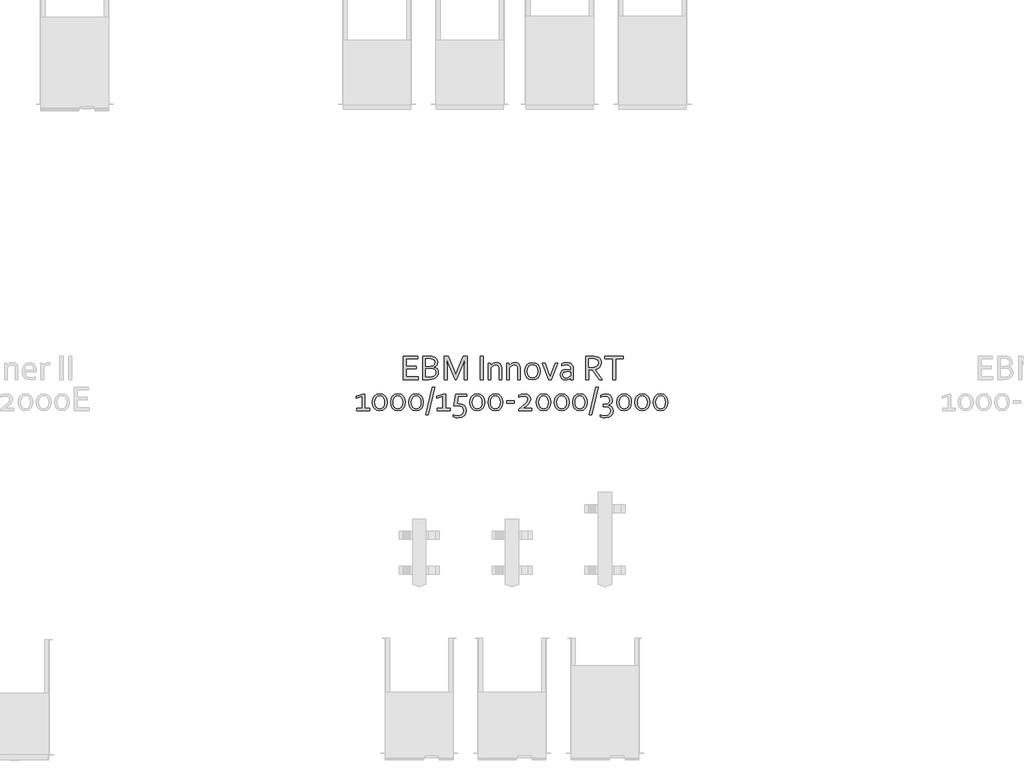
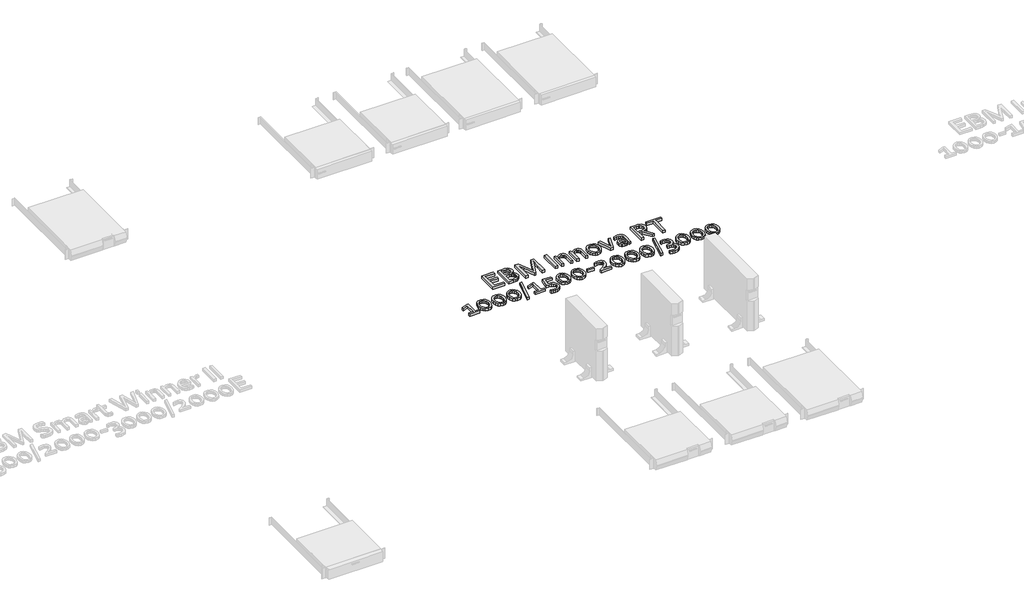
# One storey, part 5 of 14: 1 proxy.
"""IFC4 building model written with IfcOpenShell, lengths in millimetres."""

from ifc_helpers import new_model, si_unit, origin, origin_with_axes, place, context, project, spatial, polyline, outline, extrude, element, save

model = new_model("IFC4")

# Units and contexts
model_context = context("Model", 3, world=origin())
ifc_project = project(units=[si_unit("LENGTHUNIT", "METRE", prefix="MILLI")], contexts=[model_context])

# Site, building, storey
site = spatial("IfcSite", under=ifc_project)
building = spatial("IfcBuilding", under=site)
storey = spatial("IfcBuildingStorey", under=building, Name="Этаж 01", Elevation=0.0)

# Proxy
placement = place(None, origin())
element("IfcBuildingElementProxy", 1, Name="150 мм Corbel", ObjectType="150 мм Corbel", at=placement, inside=storey, context=model_context, shape_type="SweptSolid", body=[
    extrude(outline(polyline([(8133.1214474, -7548.6877316), (8210.0346045, -7548.6877316), (8210.0346045, -7565.4878752), (8113.5212799, -7565.4878752), (8113.5212799, -7414.2865833), (8205.878319, -7414.2865833), (8205.878319, -7431.0867269), (8133.1214474, -7431.0867269), (8133.1214474, -7478.6871335), (8197.8282502, -7478.6871335), (8197.8282502, -7495.4872771), (8133.1214474, -7495.4872771), (8133.1214474, -7548.6877316)])), origin_with_axes(), (0.0, 0.0, 1.0), 20.0),
    extrude(outline(polyline([(8310.8354658, -7486.1246971), (8323.3261975, -7490.1278563), (8332.7325278, -7497.1497913), (8338.4638268, -7507.3217532), (8340.3232177, -7520.7749931), (8338.8138298, -7532.0407144), (8333.7825368, -7543.4814371), (8324.5512079, -7553.7190246), (8310.397962, -7561.37534), (8296.004089, -7564.5691173), (8277.0164268, -7565.4878752), (8239.5223565, -7565.4878752), (8239.5223565, -7414.2865833), (8275.9664178, -7414.2865833), (8285.0446204, -7414.4615848), (8292.5696847, -7414.9647141), (8298.9572393, -7415.7959712), (8304.5354119, -7416.9553561), (8317.0042685, -7422.1616506), (8326.54185, -7430.0148427), (8332.6012767, -7440.3836813), (8334.7231699, -7453.0056641), (8333.4325338, -7463.4838786), (8329.2762483, -7472.7370827), (8321.8824351, -7480.3277726), (8310.8354658, -7486.1246971)]), holes=[polyline([(8286.2477557, -7478.6871335), (8295.2822079, -7478.1840042), (8302.1728917, -7476.7183667), (8314.1604942, -7468.1214183), (8317.9230263, -7454.3181753), (8313.9854927, -7440.9961865), (8301.6478873, -7433.2742455), (8292.022805, -7431.5898561), (8279.1164448, -7431.0867269), (8259.1225239, -7431.0867269), (8259.1225239, -7478.6871335), (8286.2477557, -7478.6871335)]), polyline([(8259.1225239, -7495.4872771), (8259.1225239, -7548.6877316), (8280.428956, -7548.6877316), (8294.5165763, -7547.9439753), (8305.5416705, -7545.5814551), (8313.9854927, -7541.1845425), (8319.5636653, -7535.2344917), (8322.6043163, -7528.3219326), (8323.5230742, -7520.9062443), (8322.5386907, -7512.7030492), (8319.3449135, -7505.8342405), (8313.5042386, -7500.5185701), (8304.4916616, -7496.9747898), (8297.054098, -7495.8372801), (8286.7290098, -7495.4872771), (8259.1225239, -7495.4872771)])]), origin_with_axes(), (0.0, 0.0, 1.0), 20.0),
    extrude(outline(polyline([(8456.5679609, -7565.4878752), (8448.0803884, -7565.4878752), (8411.0675721, -7475.1871036), (8395.6674405, -7434.6305071), (8396.3236962, -7492.3810005), (8396.3236962, -7565.4878752), (8376.7235287, -7565.4878752), (8376.7235287, -7414.2865833), (8403.1925048, -7414.2865833), (8438.6303076, -7499.8185641), (8452.017922, -7535.2126165), (8465.9742912, -7499.8185641), (8501.4558444, -7414.2865833), (8527.9248205, -7414.2865833), (8527.9248205, -7565.4878752), (8508.3246531, -7565.4878752), (8508.3246531, -7492.3810005), (8509.8996665, -7434.6305071), (8493.5807771, -7475.1871036), (8456.5679609, -7565.4878752)])), origin_with_axes(), (0.0, 0.0, 1.0), 20.0),
    extrude(outline(polyline([(8609.1255143, -7565.4878752), (8609.1255143, -7414.2865833), (8628.7256818, -7414.2865833), (8628.7256818, -7565.4878752), (8609.1255143, -7565.4878752)])), origin_with_axes(), (0.0, 0.0, 1.0), 20.0),
    extrude(outline(polyline([(8679.0386116, -7473.8745924), (8685.754294, -7467.0057837), (8693.6074861, -7461.3838607), (8703.1231924, -7457.6213286), (8714.3889136, -7456.2869422), (8727.9952799, -7458.2994594), (8738.9984989, -7464.7963899), (8746.3923121, -7476.4996149), (8749.1267104, -7494.2622666), (8749.1267104, -7565.4878752), (8732.3265669, -7565.4878752), (8732.3265669, -7496.4060349), (8730.9812429, -7484.4457765), (8726.9452709, -7476.3902389), (8720.3389645, -7471.8128561), (8711.2826371, -7470.2870618), (8693.7387372, -7475.5152314), (8679.1261124, -7489.8872292), (8679.1261124, -7565.4878752), (8662.3259688, -7565.4878752), (8662.3259688, -7459.0869661), (8675.6698328, -7459.0869661), (8679.0386116, -7473.8745924)])), origin_with_axes(), (0.0, 0.0, 1.0), 20.0),
    extrude(outline(polyline([(8799.4396403, -7473.8745924), (8806.1553227, -7467.0057837), (8814.0085148, -7461.3838607), (8823.5242211, -7457.6213286), (8834.7899423, -7456.2869422), (8848.3963086, -7458.2994594), (8859.3995276, -7464.7963899), (8866.7933408, -7476.4996149), (8869.5277391, -7494.2622666), (8869.5277391, -7565.4878752), (8852.7275956, -7565.4878752), (8852.7275956, -7496.4060349), (8851.3822716, -7484.4457765), (8847.3462996, -7476.3902389), (8840.7399932, -7471.8128561), (8831.6836658, -7470.2870618), (8814.1397659, -7475.5152314), (8799.5271411, -7489.8872292), (8799.5271411, -7565.4878752), (8782.7269975, -7565.4878752), (8782.7269975, -7459.0869661), (8796.0708615, -7459.0869661), (8799.4396403, -7473.8745924)])), origin_with_axes(), (0.0, 0.0, 1.0), 20.0),
    extrude(outline(polyline([(8998.3288396, -7512.4186717), (8994.7631841, -7535.2344917), (8984.6568478, -7552.8877675), (8968.8410876, -7564.2628647), (8948.0596601, -7568.2878991), (8926.862604, -7564.2628647), (8910.9812183, -7552.8877675), (8900.9842579, -7535.2344917), (8897.5279784, -7512.4186717), (8901.0936338, -7489.4278503), (8911.1999702, -7471.7308241), (8927.0813559, -7460.3119765), (8947.928409, -7456.2869422), (8969.0379643, -7460.3119765), (8984.91935, -7471.7308241), (8994.8725601, -7489.4278503), (8998.3288396, -7512.4186717)]), holes=[polyline([(8981.528696, -7512.4186717), (8979.0349247, -7494.546644), (8972.0567401, -7481.312156), (8961.4035241, -7473.0870857), (8947.928409, -7470.2870618), (8934.4532938, -7473.0870857), (8923.8000778, -7481.312156), (8916.8218932, -7494.546644), (8914.3281219, -7512.4186717), (8916.8218932, -7530.1594483), (8923.8657034, -7543.3283108), (8934.5626698, -7551.4877555), (8948.0596601, -7554.2877795), (8961.4691497, -7551.4877555), (8972.0567401, -7543.3283108), (8979.0349247, -7530.1594483), (8981.528696, -7512.4186717)])]), origin_with_axes(), (0.0, 0.0, 1.0), 20.0),
    extrude(outline(polyline([(9061.2418771, -7547.9002249), (9072.0044691, -7518.2374715), (9093.529653, -7459.0869661), (9110.3297965, -7459.0869661), (9070.2982045, -7565.4878752), (9052.3605512, -7565.4878752), (9012.3289592, -7459.0869661), (9029.1291027, -7459.0869661), (9050.5230355, -7518.2374715), (9061.2418771, -7547.9002249)])), origin_with_axes(), (0.0, 0.0, 1.0), 20.0),
    extrude(outline(polyline([(9194.8555187, -7553.7190246), (9189.0585941, -7559.034695), (9181.6429058, -7563.7597354), (9172.4553273, -7567.0628886), (9161.8239865, -7568.2878991), (9147.8019917, -7566.0347548), (9136.842523, -7559.4065732), (9129.6893369, -7548.7533572), (9127.12994, -7534.5126105), (9129.9737143, -7520.5124909), (9137.9362824, -7510.0342764), (9150.2520126, -7503.4060947), (9166.1552735, -7501.0873249), (9181.4022787, -7502.5748376), (9193.8930104, -7505.9436164), (9194.3305142, -7498.3310514), (9193.7617593, -7489.9966052), (9191.8367429, -7483.6309258), (9182.5616636, -7474.0714691), (9165.280266, -7470.2870618), (9150.0770111, -7471.7745745), (9135.9237652, -7475.8871096), (9135.9237652, -7462.1932426), (9142.2456942, -7459.8088472), (9149.9238848, -7457.905706), (9158.4333325, -7456.7025707), (9167.4240343, -7456.2869422), (9182.0585343, -7457.7142981), (9193.6742586, -7461.9963659), (9202.3368326, -7468.6300164), (9208.1118819, -7477.1121201), (9210.4306517, -7485.0090626), (9211.1306577, -7494.4810185), (9211.1306577, -7565.4878752), (9196.7367847, -7565.4878752), (9194.8555187, -7553.7190246)]), holes=[polyline([(9194.3305142, -7519.0687286), (9182.7147899, -7516.4655813), (9167.9490388, -7515.0874445), (9150.295763, -7519.8562353), (9145.5215034, -7525.9047245), (9143.9300836, -7534.5126105), (9145.5269722, -7543.2626853), (9149.9020096, -7549.4533632), (9156.4864409, -7553.0846442), (9164.6240104, -7554.2877795), (9175.2116008, -7552.6471404), (9183.9179252, -7548.731482), (9190.3929805, -7544.1814431), (9194.3305142, -7540.6376628), (9194.3305142, -7519.0687286)])]), origin_with_axes(), (0.0, 0.0, 1.0), 20.0),
    extrude(outline(polyline([(9311.9315189, -7503.8873488), (9311.9315189, -7565.4878752), (9292.3313515, -7565.4878752), (9292.3313515, -7414.2865833), (9331.3129345, -7414.2865833), (9348.1130781, -7415.0303397), (9360.7569361, -7417.3928599), (9374.6476798, -7423.2554099), (9384.8196417, -7432.1804862), (9391.05407, -7443.9383992), (9393.1322127, -7458.2994594), (9390.2228129, -7474.880851), (9382.041493, -7487.5684594), (9369.4195101, -7496.3622846), (9353.1006207, -7501.3935775), (9398.7322606, -7565.4878752), (9379.1320931, -7565.4878752), (9333.6754547, -7503.8873488), (9311.9315189, -7503.8873488)]), holes=[polyline([(9311.9315189, -7431.0867269), (9311.9315189, -7487.0872053), (9329.60667, -7487.0872053), (9343.6505399, -7486.5184504), (9354.1068793, -7484.4621829), (9368.4788771, -7474.9683518), (9373.5320453, -7457.9494564), (9368.6976289, -7442.111821), (9355.6381424, -7433.4929974), (9346.2099368, -7431.6554817), (9332.2316924, -7431.0867269), (9311.9315189, -7431.0867269)])]), origin_with_axes(), (0.0, 0.0, 1.0), 20.0),
    extrude(outline(polyline([(9485.5330022, -7565.4878752), (9465.9328347, -7565.4878752), (9465.9328347, -7431.0867269), (9415.8386567, -7431.0867269), (9415.8386567, -7414.2865833), (9535.6271802, -7414.2865833), (9535.6271802, -7431.0867269), (9485.5330022, -7431.0867269), (9485.5330022, -7565.4878752)])), origin_with_axes(), (0.0, 0.0, 1.0), 20.0),
    extrude(outline(polyline([(7848.9190192, -7751.8881861), (7848.9190192, -7673.4875163), (7808.4499235, -7687.4876359), (7808.4499235, -7673.4875163), (7851.1940387, -7659.4873967), (7865.7191628, -7659.4873967), (7865.7191628, -7751.8881861), (7895.0756636, -7751.8881861), (7895.0756636, -7765.8883058), (7813.1312135, -7765.8883058), (7813.1312135, -7751.8881861), (7848.9190192, -7751.8881861)])), origin_with_axes(), (0.0, 0.0, 1.0), 20.0),
    extrude(outline(polyline([(8008.5203828, -7712.8191023), (8005.3047304, -7734.9130411), (7995.9640256, -7752.6538177), (7981.0670233, -7764.4226682), (7961.0074769, -7768.6883297), (7940.5541771, -7764.4226682), (7925.5915493, -7752.6538177), (7916.425846, -7734.9130411), (7913.3195695, -7712.8191023), (7916.5352219, -7690.5720373), (7925.8759267, -7672.7656351), (7940.8385546, -7660.9530342), (7960.9199761, -7656.6873728), (7981.2857751, -7660.9530342), (7996.248403, -7672.7656351), (8005.4141063, -7690.5720373), (8008.5203828, -7712.8191023)]), holes=[polyline([(7991.7202393, -7712.8191023), (7989.5327206, -7695.1658265), (7983.3420427, -7681.9313384), (7973.6732101, -7673.5968922), (7960.9199761, -7670.6874924), (7948.1667422, -7673.5968922), (7938.4541592, -7681.9313384), (7932.2634813, -7695.1658265), (7930.119713, -7712.8191023), (7932.3072317, -7730.3192519), (7938.4979096, -7743.5099896), (7948.2323677, -7751.7788102), (7961.0512273, -7754.6882101), (7973.782586, -7751.7788102), (7983.4514186, -7743.5099896), (7989.576471, -7730.3192519), (7991.7202393, -7712.8191023)])]), origin_with_axes(), (0.0, 0.0, 1.0), 20.0),
    extrude(outline(polyline([(8126.1213876, -7712.8191023), (8122.9057351, -7734.9130411), (8113.5650303, -7752.6538177), (8098.668028, -7764.4226682), (8078.6084817, -7768.6883297), (8058.1551819, -7764.4226682), (8043.1925541, -7752.6538177), (8034.0268508, -7734.9130411), (8030.9205742, -7712.8191023), (8034.1362267, -7690.5720373), (8043.4769315, -7672.7656351), (8058.4395593, -7660.9530342), (8078.5209809, -7656.6873728), (8098.8867799, -7660.9530342), (8113.8494077, -7672.7656351), (8123.0151111, -7690.5720373), (8126.1213876, -7712.8191023)]), holes=[polyline([(8109.3212441, -7712.8191023), (8107.1337254, -7695.1658265), (8100.9430475, -7681.9313384), (8091.2742149, -7673.5968922), (8078.5209809, -7670.6874924), (8065.7677469, -7673.5968922), (8056.055164, -7681.9313384), (8049.8644861, -7695.1658265), (8047.7207178, -7712.8191023), (8049.9082364, -7730.3192519), (8056.0989143, -7743.5099896), (8065.8333725, -7751.7788102), (8078.652232, -7754.6882101), (8091.3835908, -7751.7788102), (8101.0524234, -7743.5099896), (8107.1774757, -7730.3192519), (8109.3212441, -7712.8191023)])]), origin_with_axes(), (0.0, 0.0, 1.0), 20.0),
    extrude(outline(polyline([(8243.7223924, -7712.8191023), (8240.5067399, -7734.9130411), (8231.1660351, -7752.6538177), (8216.2690328, -7764.4226682), (8196.2094864, -7768.6883297), (8175.7561867, -7764.4226682), (8160.7935588, -7752.6538177), (8151.6278555, -7734.9130411), (8148.521579, -7712.8191023), (8151.7372315, -7690.5720373), (8161.0779363, -7672.7656351), (8176.0405641, -7660.9530342), (8196.1219857, -7656.6873728), (8216.4877847, -7660.9530342), (8231.4504125, -7672.7656351), (8240.6161158, -7690.5720373), (8243.7223924, -7712.8191023)]), holes=[polyline([(8226.9222488, -7712.8191023), (8224.7347301, -7695.1658265), (8218.5440522, -7681.9313384), (8208.8752196, -7673.5968922), (8196.1219857, -7670.6874924), (8183.3687517, -7673.5968922), (8173.6561687, -7681.9313384), (8167.4654908, -7695.1658265), (8165.3217225, -7712.8191023), (8167.5092412, -7730.3192519), (8173.6999191, -7743.5099896), (8183.4343773, -7751.7788102), (8196.2532368, -7754.6882101), (8208.9845956, -7751.7788102), (8218.6534282, -7743.5099896), (8224.7784805, -7730.3192519), (8226.9222488, -7712.8191023)])]), origin_with_axes(), (0.0, 0.0, 1.0), 20.0),
    extrude(outline(polyline([(8256.9350052, -7793.888545), (8299.5478693, -7614.6870139), (8316.129261, -7614.6870139), (8273.5163969, -7793.888545), (8256.9350052, -7793.888545)])), origin_with_axes(), (0.0, 0.0, 1.0), 20.0),
    extrude(outline(polyline([(8369.7234689, -7751.8881861), (8369.7234689, -7673.4875163), (8329.2543731, -7687.4876359), (8329.2543731, -7673.4875163), (8371.9984883, -7659.4873967), (8386.5236124, -7659.4873967), (8386.5236124, -7751.8881861), (8415.8801132, -7751.8881861), (8415.8801132, -7765.8883058), (8333.9356631, -7765.8883058), (8333.9356631, -7751.8881861), (8369.7234689, -7751.8881861)])), origin_with_axes(), (0.0, 0.0, 1.0), 20.0),
    extrude(outline(polyline([(8520.9247607, -7765.7570546), (8517.446606, -7784.8103424), (8507.2527689, -7799.9260966), (8490.3213743, -7809.9011818), (8467.111801, -7813.4887125), (8450.8585371, -7812.0011997), (8436.9677934, -7807.4511609), (8436.9677934, -7793.888545), (8452.6523024, -7798.3292079), (8466.3242942, -7799.4885928), (8482.9275611, -7796.8635704), (8494.6964116, -7789.7103843), (8501.762097, -7779.1665442), (8504.1246172, -7766.5445614), (8501.6308459, -7752.6100673), (8493.8214042, -7742.8318588), (8480.1712875, -7737.0130591), (8460.0679908, -7735.0880426), (8440.2928218, -7736.2255523), (8450.9241627, -7659.4873967), (8521.9747697, -7659.4873967), (8521.9747697, -7673.4875163), (8467.7243062, -7673.4875163), (8461.4680027, -7721.3066749), (8467.7243062, -7721.087923), (8490.4745006, -7724.1066988), (8507.1652682, -7732.8348984), (8517.4247308, -7746.835018), (8520.9247607, -7765.7570546)])), origin_with_axes(), (0.0, 0.0, 1.0), 20.0),
    extrude(outline(polyline([(8638.5257655, -7712.8191023), (8635.310113, -7734.9130411), (8625.9694082, -7752.6538177), (8611.0724059, -7764.4226682), (8591.0128595, -7768.6883297), (8570.5595598, -7764.4226682), (8555.596932, -7752.6538177), (8546.4312286, -7734.9130411), (8543.3249521, -7712.8191023), (8546.5406046, -7690.5720373), (8555.8813094, -7672.7656351), (8570.8439372, -7660.9530342), (8590.9253588, -7656.6873728), (8611.2911578, -7660.9530342), (8626.2537856, -7672.7656351), (8635.4194889, -7690.5720373), (8638.5257655, -7712.8191023)]), holes=[polyline([(8621.7256219, -7712.8191023), (8619.5381033, -7695.1658265), (8613.3474254, -7681.9313384), (8603.6785928, -7673.5968922), (8590.9253588, -7670.6874924), (8578.1721248, -7673.5968922), (8568.4595419, -7681.9313384), (8562.268864, -7695.1658265), (8560.1250956, -7712.8191023), (8562.3126143, -7730.3192519), (8568.5032922, -7743.5099896), (8578.2377504, -7751.7788102), (8591.0566099, -7754.6882101), (8603.7879687, -7751.7788102), (8613.4568013, -7743.5099896), (8619.5818536, -7730.3192519), (8621.7256219, -7712.8191023)])]), origin_with_axes(), (0.0, 0.0, 1.0), 20.0),
    extrude(outline(polyline([(8756.1267702, -7712.8191023), (8752.9111178, -7734.9130411), (8743.570413, -7752.6538177), (8728.6734107, -7764.4226682), (8708.6138643, -7768.6883297), (8688.1605646, -7764.4226682), (8673.1979367, -7752.6538177), (8664.0322334, -7734.9130411), (8660.9259569, -7712.8191023), (8664.1416093, -7690.5720373), (8673.4823141, -7672.7656351), (8688.444942, -7660.9530342), (8708.5263636, -7656.6873728), (8728.8921626, -7660.9530342), (8743.8547904, -7672.7656351), (8753.0204937, -7690.5720373), (8756.1267702, -7712.8191023)]), holes=[polyline([(8739.3266267, -7712.8191023), (8737.139108, -7695.1658265), (8730.9484301, -7681.9313384), (8721.2795975, -7673.5968922), (8708.5263636, -7670.6874924), (8695.7731296, -7673.5968922), (8686.0605466, -7681.9313384), (8679.8698687, -7695.1658265), (8677.7261004, -7712.8191023), (8679.9136191, -7730.3192519), (8686.104297, -7743.5099896), (8695.8387552, -7751.7788102), (8708.6576147, -7754.6882101), (8721.3889735, -7751.7788102), (8731.0578061, -7743.5099896), (8737.1828584, -7730.3192519), (8739.3266267, -7712.8191023)])]), origin_with_axes(), (0.0, 0.0, 1.0), 20.0),
    extrude(outline(polyline([(8780.8019811, -7704.2877795), (8830.2399035, -7704.2877795), (8830.2399035, -7718.2878991), (8780.8019811, -7718.2878991), (8780.8019811, -7704.2877795)])), origin_with_axes(), (0.0, 0.0, 1.0), 20.0),
    extrude(outline(polyline([(8887.5091428, -7752.3256899), (8910.6968409, -7751.8881861), (8944.3846287, -7751.8881861), (8944.3846287, -7765.8883058), (8859.1151502, -7765.8883058), (8859.1151502, -7756.3507243), (8882.8934783, -7738.5661973), (8901.6623887, -7722.7504372), (8914.0437445, -7708.0065612), (8918.5281578, -7693.5689379), (8916.9586131, -7684.9610518), (8912.2499791, -7678.6500604), (8904.5991325, -7674.7781523), (8894.2029499, -7673.4875163), (8877.2278049, -7675.084405), (8860.2526599, -7679.0875642), (8860.2526599, -7667.012461), (8876.0027944, -7661.7405409), (8896.5654701, -7659.4873967), (8912.7093581, -7661.7186658), (8924.9375875, -7668.2155963), (8932.6157781, -7678.7594363), (8935.3283013, -7693.2626853), (8931.784521, -7709.6253251), (8921.9844373, -7724.2379499), (8906.7593072, -7738.063068), (8887.5091428, -7752.3256899)])), origin_with_axes(), (0.0, 0.0, 1.0), 20.0),
    extrude(outline(polyline([(9066.9294257, -7712.8191023), (9063.7137732, -7734.9130411), (9054.3730684, -7752.6538177), (9039.4760661, -7764.4226682), (9019.4165198, -7768.6883297), (8998.96322, -7764.4226682), (8984.0005922, -7752.6538177), (8974.8348889, -7734.9130411), (8971.7286123, -7712.8191023), (8974.9442648, -7690.5720373), (8984.2849696, -7672.7656351), (8999.2475974, -7660.9530342), (9019.329019, -7656.6873728), (9039.694818, -7660.9530342), (9054.6574458, -7672.7656351), (9063.8231492, -7690.5720373), (9066.9294257, -7712.8191023)]), holes=[polyline([(9050.1292822, -7712.8191023), (9047.9417635, -7695.1658265), (9041.7510856, -7681.9313384), (9032.082253, -7673.5968922), (9019.329019, -7670.6874924), (9006.575785, -7673.5968922), (8996.8632021, -7681.9313384), (8990.6725242, -7695.1658265), (8988.5287559, -7712.8191023), (8990.7162745, -7730.3192519), (8996.9069524, -7743.5099896), (9006.6414106, -7751.7788102), (9019.4602701, -7754.6882101), (9032.1916289, -7751.7788102), (9041.8604615, -7743.5099896), (9047.9855138, -7730.3192519), (9050.1292822, -7712.8191023)])]), origin_with_axes(), (0.0, 0.0, 1.0), 20.0),
    extrude(outline(polyline([(9184.5304305, -7712.8191023), (9181.314778, -7734.9130411), (9171.9740732, -7752.6538177), (9157.0770709, -7764.4226682), (9137.0175245, -7768.6883297), (9116.5642248, -7764.4226682), (9101.6015969, -7752.6538177), (9092.4358936, -7734.9130411), (9089.3296171, -7712.8191023), (9092.5452696, -7690.5720373), (9101.8859744, -7672.7656351), (9116.8486022, -7660.9530342), (9136.9300238, -7656.6873728), (9157.2958228, -7660.9530342), (9172.2584506, -7672.7656351), (9181.4241539, -7690.5720373), (9184.5304305, -7712.8191023)]), holes=[polyline([(9167.7302869, -7712.8191023), (9165.5427682, -7695.1658265), (9159.3520903, -7681.9313384), (9149.6832577, -7673.5968922), (9136.9300238, -7670.6874924), (9124.1767898, -7673.5968922), (9114.4642068, -7681.9313384), (9108.2735289, -7695.1658265), (9106.1297606, -7712.8191023), (9108.3172793, -7730.3192519), (9114.5079572, -7743.5099896), (9124.2424154, -7751.7788102), (9137.0612749, -7754.6882101), (9149.7926337, -7751.7788102), (9159.4614663, -7743.5099896), (9165.5865186, -7730.3192519), (9167.7302869, -7712.8191023)])]), origin_with_axes(), (0.0, 0.0, 1.0), 20.0),
    extrude(outline(polyline([(9302.1314352, -7712.8191023), (9298.9157827, -7734.9130411), (9289.5750779, -7752.6538177), (9274.6780757, -7764.4226682), (9254.6185293, -7768.6883297), (9234.1652295, -7764.4226682), (9219.2026017, -7752.6538177), (9210.0368984, -7734.9130411), (9206.9306218, -7712.8191023), (9210.1462743, -7690.5720373), (9219.4869791, -7672.7656351), (9234.449607, -7660.9530342), (9254.5310285, -7656.6873728), (9274.8968275, -7660.9530342), (9289.8594554, -7672.7656351), (9299.0251587, -7690.5720373), (9302.1314352, -7712.8191023)]), holes=[polyline([(9285.3312917, -7712.8191023), (9283.143773, -7695.1658265), (9276.9530951, -7681.9313384), (9267.2842625, -7673.5968922), (9254.5310285, -7670.6874924), (9241.7777946, -7673.5968922), (9232.0652116, -7681.9313384), (9225.8745337, -7695.1658265), (9223.7307654, -7712.8191023), (9225.9182841, -7730.3192519), (9232.108962, -7743.5099896), (9241.8434201, -7751.7788102), (9254.6622796, -7754.6882101), (9267.3936384, -7751.7788102), (9277.062471, -7743.5099896), (9283.1875234, -7730.3192519), (9285.3312917, -7712.8191023)])]), origin_with_axes(), (0.0, 0.0, 1.0), 20.0),
    extrude(outline(polyline([(9315.3440481, -7793.888545), (9357.9569122, -7614.6870139), (9374.5383038, -7614.6870139), (9331.9254398, -7793.888545), (9315.3440481, -7793.888545)])), origin_with_axes(), (0.0, 0.0, 1.0), 20.0),
    extrude(outline(polyline([(9438.8513533, -7732.6817721), (9450.2264505, -7735.8099238), (9459.8515328, -7742.5256062), (9467.0922196, -7753.2663229), (9470.1328706, -7768.2070756), (9466.9172181, -7786.8884852), (9457.3796366, -7801.1948574), (9441.148248, -7810.2949352), (9418.2449273, -7813.4887125), (9400.8979041, -7811.9574494), (9386.263404, -7807.4511609), (9386.263404, -7793.888545), (9402.2104153, -7798.1760816), (9416.9761664, -7799.4885928), (9434.2575641, -7796.9073208), (9445.4139094, -7790.1041377), (9451.4733362, -7780.3259291), (9453.3327271, -7768.7320801), (9450.8772373, -7755.9296269), (9443.5107681, -7747.2725217), (9431.7473864, -7742.3341983), (9416.101159, -7740.6880905), (9404.2010573, -7740.6880905), (9404.2010573, -7726.6879708), (9411.1573667, -7726.6879708), (9427.7168832, -7724.5004522), (9439.0919804, -7718.4629006), (9445.6545365, -7709.384698), (9447.7326792, -7698.1189768), (9445.4357846, -7687.0938826), (9439.1576059, -7679.4375671), (9429.795026, -7674.9531538), (9418.2449273, -7673.4875163), (9402.8666709, -7674.9969042), (9387.6196656, -7679.0875642), (9387.6196656, -7665.612449), (9405.1635655, -7660.8217831), (9419.9074415, -7659.4873967), (9439.3107323, -7662.3530462), (9453.2671015, -7670.3812398), (9461.6234229, -7682.5875941), (9464.5328227, -7698.1189768), (9463.1765612, -7709.0128198), (9458.7358982, -7718.8129036), (9450.7733302, -7726.8410972), (9438.8513533, -7732.6817721)])), origin_with_axes(), (0.0, 0.0, 1.0), 20.0),
    extrude(outline(polyline([(9587.7338754, -7712.8191023), (9584.5182229, -7734.9130411), (9575.1775181, -7752.6538177), (9560.2805158, -7764.4226682), (9540.2209694, -7768.6883297), (9519.7676697, -7764.4226682), (9504.8050418, -7752.6538177), (9495.6393385, -7734.9130411), (9492.533062, -7712.8191023), (9495.7487144, -7690.5720373), (9505.0894193, -7672.7656351), (9520.0520471, -7660.9530342), (9540.1334687, -7656.6873728), (9560.4992677, -7660.9530342), (9575.4618955, -7672.7656351), (9584.6275988, -7690.5720373), (9587.7338754, -7712.8191023)]), holes=[polyline([(9570.9337318, -7712.8191023), (9568.7462131, -7695.1658265), (9562.5555352, -7681.9313384), (9552.8867026, -7673.5968922), (9540.1334687, -7670.6874924), (9527.3802347, -7673.5968922), (9517.6676517, -7681.9313384), (9511.4769738, -7695.1658265), (9509.3332055, -7712.8191023), (9511.5207242, -7730.3192519), (9517.7114021, -7743.5099896), (9527.4458603, -7751.7788102), (9540.2647198, -7754.6882101), (9552.9960786, -7751.7788102), (9562.6649112, -7743.5099896), (9568.7899635, -7730.3192519), (9570.9337318, -7712.8191023)])]), origin_with_axes(), (0.0, 0.0, 1.0), 20.0),
    extrude(outline(polyline([(9705.3348801, -7712.8191023), (9702.1192276, -7734.9130411), (9692.7785228, -7752.6538177), (9677.8815206, -7764.4226682), (9657.8219742, -7768.6883297), (9637.3686744, -7764.4226682), (9622.4060466, -7752.6538177), (9613.2403433, -7734.9130411), (9610.1340667, -7712.8191023), (9613.3497192, -7690.5720373), (9622.690424, -7672.7656351), (9637.6530519, -7660.9530342), (9657.7344734, -7656.6873728), (9678.1002724, -7660.9530342), (9693.0629003, -7672.7656351), (9702.2286036, -7690.5720373), (9705.3348801, -7712.8191023)]), holes=[polyline([(9688.5347366, -7712.8191023), (9686.3472179, -7695.1658265), (9680.15654, -7681.9313384), (9670.4877074, -7673.5968922), (9657.7344734, -7670.6874924), (9644.9812395, -7673.5968922), (9635.2686565, -7681.9313384), (9629.0779786, -7695.1658265), (9626.9342103, -7712.8191023), (9629.121729, -7730.3192519), (9635.3124069, -7743.5099896), (9645.046865, -7751.7788102), (9657.8657245, -7754.6882101), (9670.5970833, -7751.7788102), (9680.2659159, -7743.5099896), (9686.3909683, -7730.3192519), (9688.5347366, -7712.8191023)])]), origin_with_axes(), (0.0, 0.0, 1.0), 20.0),
    extrude(outline(polyline([(9822.9358849, -7712.8191023), (9819.7202324, -7734.9130411), (9810.3795276, -7752.6538177), (9795.4825253, -7764.4226682), (9775.4229789, -7768.6883297), (9754.9696792, -7764.4226682), (9740.0070513, -7752.6538177), (9730.841348, -7734.9130411), (9727.7350715, -7712.8191023), (9730.950724, -7690.5720373), (9740.2914288, -7672.7656351), (9755.2540566, -7660.9530342), (9775.3354782, -7656.6873728), (9795.7012772, -7660.9530342), (9810.663905, -7672.7656351), (9819.8296083, -7690.5720373), (9822.9358849, -7712.8191023)]), holes=[polyline([(9806.1357413, -7712.8191023), (9803.9482227, -7695.1658265), (9797.7575448, -7681.9313384), (9788.0887122, -7673.5968922), (9775.3354782, -7670.6874924), (9762.5822442, -7673.5968922), (9752.8696612, -7681.9313384), (9746.6789834, -7695.1658265), (9744.535215, -7712.8191023), (9746.7227337, -7730.3192519), (9752.9134116, -7743.5099896), (9762.6478698, -7751.7788102), (9775.4667293, -7754.6882101), (9788.1980881, -7751.7788102), (9797.8669207, -7743.5099896), (9803.991973, -7730.3192519), (9806.1357413, -7712.8191023)])]), origin_with_axes(), (0.0, 0.0, 1.0), 20.0),
])

save(model, "model.ifc")
